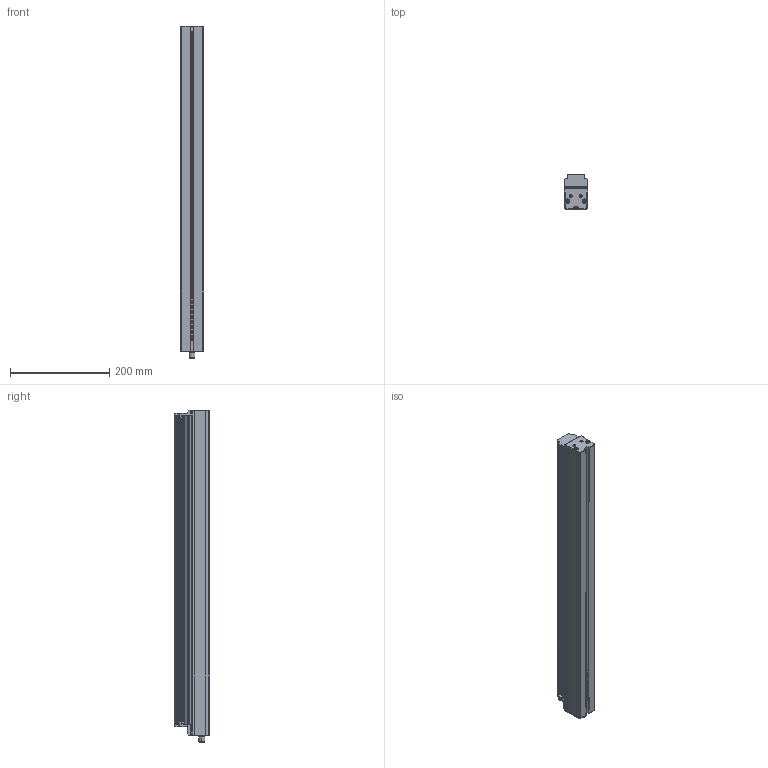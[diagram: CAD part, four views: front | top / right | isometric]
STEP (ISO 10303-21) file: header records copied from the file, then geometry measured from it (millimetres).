
FILE_DESCRIPTION (( 'STEP AP214' ), '1' );
FILE_NAME ('ELINE-EC-625-xxx-xx_CLIENT.STEP', '2026-06-08T12:08:37', ( '' ), ( '' ), 'SwSTEP 2.0', 'SolidWorks 2025', '' );
FILE_SCHEMA (( 'AUTOMOTIVE_DESIGN' ));
Length unit declared in the file: millimetre
Products named in the file (3): 1-X2014-01-3-A_1; ELINE-EC-xxx-xxx-xx_CLIENT_625; ELINE-EC-625-xxx-xx_CLIENT
Assembly tree (5 placements, depth 2):
  ELINE-EC-625-xxx-xx_CLIENT
    ELINE-EC-xxx-xxx-xx_CLIENT_625
    1-X2014-01-3-A_1  x4
Bounding box: 47.7 x 70.9 x 670.05 mm (x, y, z)
Volume: 1840308.1 mm3; surface area: 180217.6 mm2
Topology: 5 solids, 5 shells, 980 faces, 2547 edges, 1643 vertices
Faces by surface type: plane 460, cylinder 294, bspline 140, torus 64, cone 18, sphere 4
Entity records: 32588 total; most frequent: CARTESIAN_POINT 10871, ORIENTED_EDGE 4684, DIRECTION 4136, EDGE_CURVE 2342, VERTEX_POINT 1518, AXIS2_PLACEMENT_3D 1410, LINE 1316, VECTOR 1316
